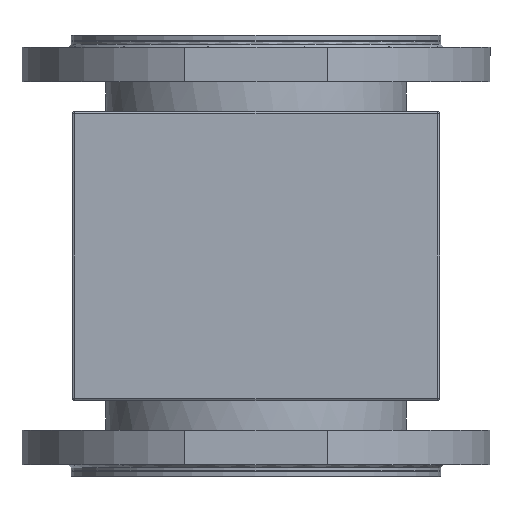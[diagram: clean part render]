
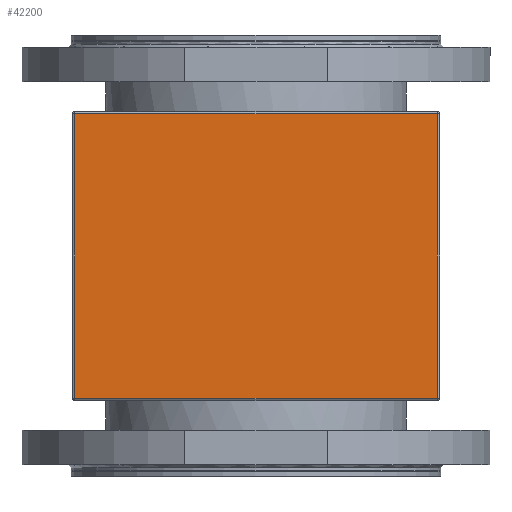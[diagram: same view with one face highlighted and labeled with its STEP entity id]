
A CAD part, front view. The second image highlights one B-rep face of the part: STEP entity #42200.
In plain terms, the highlighted planar face has unit normal (0, -1, 0).
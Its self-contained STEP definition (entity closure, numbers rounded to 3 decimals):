
#2101=PLANE('',#44957);
#3688=FACE_OUTER_BOUND('',#6046,.T.);
#6046=EDGE_LOOP('',(#29347,#29348,#29349,#29350));
#8745=LINE('',#60176,#12747);
#8746=LINE('',#60198,#12748);
#8749=LINE('',#60202,#12751);
#8763=LINE('',#60243,#12765);
#12747=VECTOR('',#49276,10.);
#12748=VECTOR('',#49303,10.);
#12751=VECTOR('',#49308,10.);
#12765=VECTOR('',#49364,10.);
#17930=VERTEX_POINT('',#60164);
#17931=VERTEX_POINT('',#60168);
#17934=VERTEX_POINT('',#60178);
#17941=VERTEX_POINT('',#60194);
#22236=EDGE_CURVE('',#17931,#17930,#8745,.T.);
#22246=EDGE_CURVE('',#17934,#17941,#8746,.T.);
#22249=EDGE_CURVE('',#17941,#17931,#8749,.T.);
#22272=EDGE_CURVE('',#17930,#17934,#8763,.T.);
#29347=ORIENTED_EDGE('',*,*,#22246,.F.);
#29348=ORIENTED_EDGE('',*,*,#22272,.F.);
#29349=ORIENTED_EDGE('',*,*,#22236,.F.);
#29350=ORIENTED_EDGE('',*,*,#22249,.F.);
#42200=ADVANCED_FACE('',(#3688),#2101,.T.);
#44957=AXIS2_PLACEMENT_3D('',#60244,#49365,#49366);
#49276=DIRECTION('',(-1.,0.,0.));
#49303=DIRECTION('',(1.,0.,0.));
#49308=DIRECTION('',(0.,0.,-1.));
#49364=DIRECTION('',(0.,0.,1.));
#49365=DIRECTION('center_axis',(0.,-1.,0.));
#49366=DIRECTION('ref_axis',(0.,0.,
1.));
#60164=CARTESIAN_POINT('',(-72.774,-244.205,-257.109));
#60168=CARTESIAN_POINT('',(256.226,-244.205,-257.109));
#60176=CARTESIAN_POINT('',(91.726,-244.205,-257.109));
#60178=CARTESIAN_POINT('',(-72.774,-244.205,0.891));
#60194=CARTESIAN_POINT('',(256.226,-244.205,0.891));
#60198=CARTESIAN_POINT('',(91.726,-244.205,0.891));
#60202=CARTESIAN_POINT('',(256.226,-244.205,-193.609));
#60243=CARTESIAN_POINT('',(-72.774,-244.205,-193.609));
#60244=CARTESIAN_POINT('Origin',(91.726,-244.205,-259.109));
